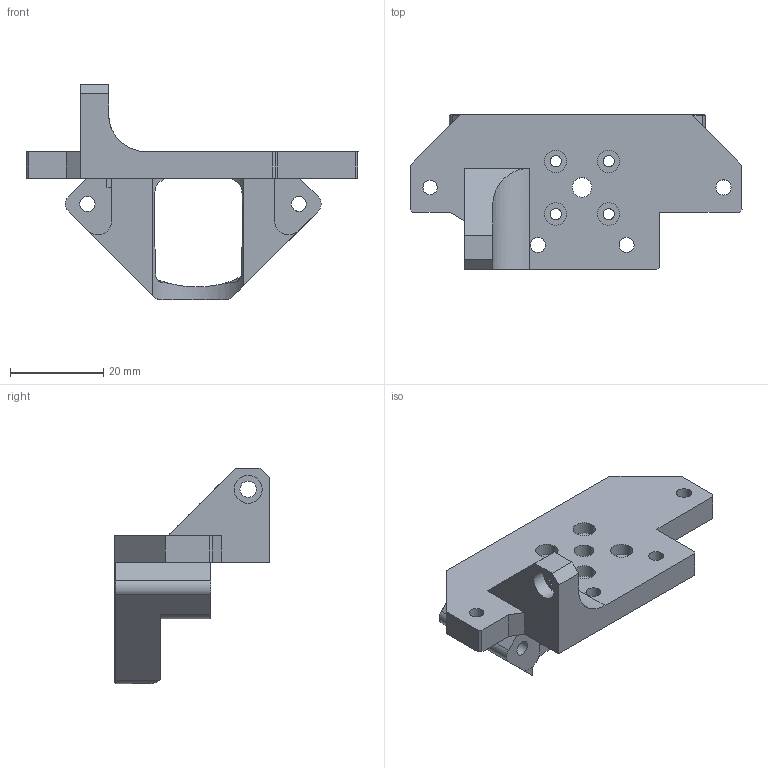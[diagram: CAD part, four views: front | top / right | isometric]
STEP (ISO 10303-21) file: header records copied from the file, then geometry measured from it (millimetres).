
FILE_DESCRIPTION(/* description */ (''),/* implementation_level */ '2;1');
FILE_NAME(/* name */ 'C:/Users/Martin/Documents/icarus-2.1/icarus-2-current-step-files/2-mounts/mount-lgx-lite-dragon-2.1.step',/* time_stamp */ '2022-08-22T21:32:27+02:00',/* author */ (''),/* organization */ (''),/* preprocessor_version */ 'ST-DEVELOPER v19',/* originating_system */ 'Autodesk Translation Framework v11.7.0.108',/* authorisation */ '');
FILE_SCHEMA (('AUTOMOTIVE_DESIGN { 1 0 10303 214 3 1 1 }'));
Length unit declared in the file: millimetre
Products named in the file (1): icarus-2-hotend-extruder-mounts
Bounding box: 71.07 x 33.12 x 46.08 mm (x, y, z)
Volume: 16735.6 mm3; surface area: 8882.6 mm2
Topology: 1 solids, 1 shells, 100 faces, 285 edges, 190 vertices
Faces by surface type: plane 50, cylinder 29, bspline 13, cone 8
Full cylindrical faces by diameter (mm): 2.4 x4, 3.1 x1, 3.2 x2, 3.25 x4, 3.5 x1, 4.2 x1, 4.8 x4, 6 x3
Entity records: 3797 total; most frequent: CARTESIAN_POINT 1147, ORIENTED_EDGE 570, DIRECTION 489, EDGE_CURVE 285, VERTEX_POINT 190, LINE 163, VECTOR 163, AXIS2_PLACEMENT_3D 163
